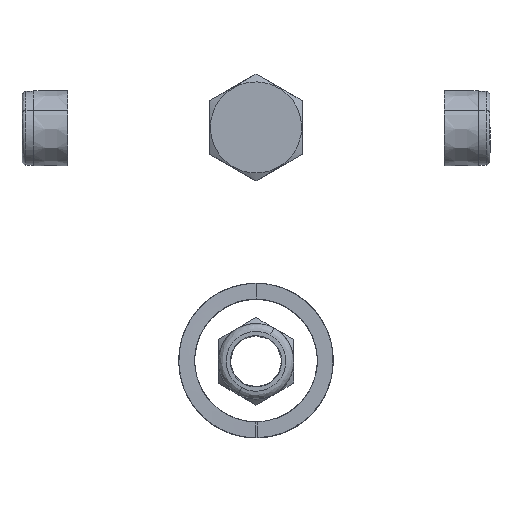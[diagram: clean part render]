
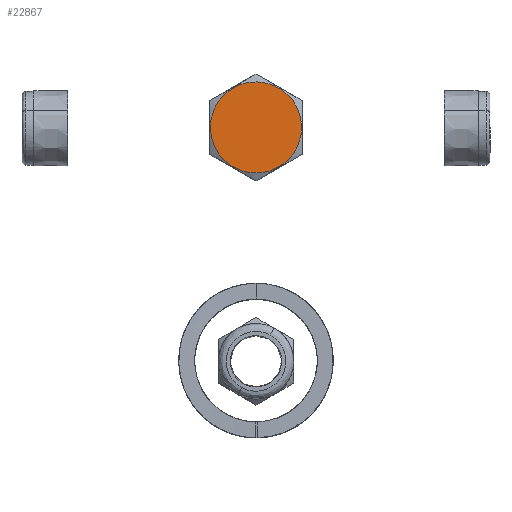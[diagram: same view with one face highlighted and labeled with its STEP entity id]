
A CAD part, top view. The second image highlights one B-rep face of the part: STEP entity #22867.
In plain terms, the highlighted planar face has unit normal (0, 0, 1).
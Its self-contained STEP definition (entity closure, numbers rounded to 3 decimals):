
#304 = FACE_OUTER_BOUND ( 'NONE', #23169, .T. ) ;
#375 = CARTESIAN_POINT ( 'NONE',  ( -11.5, 0., 0. ) ) ;
#383 = CARTESIAN_POINT ( 'NONE',  ( 11.5, 0., 0. ) ) ;
#384 = CARTESIAN_POINT ( 'NONE',  ( -11.5, -1.728, 0. ) ) ;
#385 = CARTESIAN_POINT ( 'NONE',  ( -11.111, -3.433, 0. ) ) ;
#386 = CARTESIAN_POINT ( 'NONE',  ( -10.361, -4.99, 0. ) ) ;
#387 = CARTESIAN_POINT ( 'NONE',  ( -9.612, -6.546, 0. ) ) ;
#388 = CARTESIAN_POINT ( 'NONE',  ( -8.521, -7.914, 0. ) ) ;
#389 = CARTESIAN_POINT ( 'NONE',  ( -7.17, -8.991, 0. ) ) ;
#390 = CARTESIAN_POINT ( 'NONE',  ( -5.819, -10.068, 0. ) ) ;
#391 = CARTESIAN_POINT ( 'NONE',  ( -4.243, -10.827, 0. ) ) ;
#392 = CARTESIAN_POINT ( 'NONE',  ( -2.559, -11.212, 0. ) ) ;
#393 = CARTESIAN_POINT ( 'NONE',  ( -0.875, -11.596, 0. ) ) ;
#394 = CARTESIAN_POINT ( 'NONE',  ( 0.875, -11.596, 0. ) ) ;
#395 = CARTESIAN_POINT ( 'NONE',  ( 2.559, -11.212, 0. ) ) ;
#396 = CARTESIAN_POINT ( 'NONE',  ( 4.243, -10.827, 0. ) ) ;
#397 = CARTESIAN_POINT ( 'NONE',  ( 5.819, -10.068, 0. ) ) ;
#398 = CARTESIAN_POINT ( 'NONE',  ( 7.17, -8.991, 0. ) ) ;
#399 = CARTESIAN_POINT ( 'NONE',  ( 8.521, -7.914, 0. ) ) ;
#400 = CARTESIAN_POINT ( 'NONE',  ( 9.612, -6.546, 0. ) ) ;
#401 = CARTESIAN_POINT ( 'NONE',  ( 10.361, -4.99, 0. ) ) ;
#402 = CARTESIAN_POINT ( 'NONE',  ( 11.111, -3.433, 0. ) ) ;
#403 = CARTESIAN_POINT ( 'NONE',  ( 11.5, -1.728, 0. ) ) ;
#404 = CARTESIAN_POINT ( 'NONE',  ( 11.5, 0., 0. ) ) ;
#408 = CARTESIAN_POINT ( 'NONE',  ( 11.5, 1.728, 0. ) ) ;
#409 = CARTESIAN_POINT ( 'NONE',  ( 11.111, 3.433, 0. ) ) ;
#410 = CARTESIAN_POINT ( 'NONE',  ( 10.361, 4.99, 0. ) ) ;
#411 = CARTESIAN_POINT ( 'NONE',  ( 9.612, 6.546, 0. ) ) ;
#412 = CARTESIAN_POINT ( 'NONE',  ( 8.521, 7.914, 0. ) ) ;
#413 = CARTESIAN_POINT ( 'NONE',  ( 7.17, 8.991, 0. ) ) ;
#414 = CARTESIAN_POINT ( 'NONE',  ( 5.819, 10.068, 0. ) ) ;
#415 = CARTESIAN_POINT ( 'NONE',  ( 4.243, 10.827, 0. ) ) ;
#416 = CARTESIAN_POINT ( 'NONE',  ( 2.559, 11.212, 0. ) ) ;
#417 = CARTESIAN_POINT ( 'NONE',  ( 0.875, 11.596, 0. ) ) ;
#418 = CARTESIAN_POINT ( 'NONE',  ( -0.875, 11.596, 0. ) ) ;
#419 = CARTESIAN_POINT ( 'NONE',  ( -2.559, 11.212, 0. ) ) ;
#420 = CARTESIAN_POINT ( 'NONE',  ( -4.243, 10.827, 0. ) ) ;
#421 = CARTESIAN_POINT ( 'NONE',  ( -5.819, 10.068, 0. ) ) ;
#422 = CARTESIAN_POINT ( 'NONE',  ( -7.17, 8.991, 0. ) ) ;
#423 = CARTESIAN_POINT ( 'NONE',  ( -8.521, 7.914, 0. ) ) ;
#424 = CARTESIAN_POINT ( 'NONE',  ( -9.612, 6.546, 0. ) ) ;
#425 = CARTESIAN_POINT ( 'NONE',  ( -10.361, 4.99, 0. ) ) ;
#426 = CARTESIAN_POINT ( 'NONE',  ( -11.111, 3.433, 0. ) ) ;
#427 = CARTESIAN_POINT ( 'NONE',  ( -11.5, 1.728, 0. ) ) ;
#428 = CARTESIAN_POINT ( 'NONE',  ( -11.5, 0., 0. ) ) ;
#3941 = CARTESIAN_POINT ( 'NONE',  ( -11.5, 0., 0. ) ) ;
#3942 = CARTESIAN_POINT ( 'NONE',  ( 11.5, 0., 0. ) ) ;
#4009 = VERTEX_POINT ( 'NONE', #3942 ) ;
#4010 = VERTEX_POINT ( 'NONE', #3941 ) ;
#6041 = CARTESIAN_POINT ( 'NONE',  ( -11.5, -11.5, 0. ) ) ;
#6326 = PLANE ( 'NONE',  #9818 ) ;
#6335 = DIRECTION ( 'NONE',  ( 0., 0., -1. ) ) ;
#6336 = DIRECTION ( 'NONE',  ( 0., 1., 0. ) ) ;
#9483 = EDGE_CURVE ( 'NONE', #4010, #4009, #22955, .T. ) ;
#9485 = EDGE_CURVE ( 'NONE', #4009, #4010, #22954, .T. ) ;
#9818 = AXIS2_PLACEMENT_3D ( 'NONE', #6041, #6335, #6336 ) ;
#9988 = ORIENTED_EDGE ( 'NONE', *, *, #9483, .T. ) ;
#9990 = ORIENTED_EDGE ( 'NONE', *, *, #9485, .T. ) ;
#22867 = ADVANCED_FACE ( 'NONE', ( #304 ), #6326, .F. ) ;
#22954 = B_SPLINE_CURVE_WITH_KNOTS ( 'NONE', 3,
 ( #383, #408, #409, #410, #411, #412, #413, #414, #415, #416, #417, #418, #419, #420, #421, #422, #423, #424, #425, #426, #427, #428 ),
 .UNSPECIFIED., .F., .F.,
 ( 4, 3, 3, 3, 3, 3, 3, 4 ),
 ( -0.033, -0.028, -0.023, -0.018, -0.013, -0.008, -0.003, 0.003 ),
 .UNSPECIFIED. ) ;
#22955 = B_SPLINE_CURVE_WITH_KNOTS ( 'NONE', 3,
 ( #375, #384, #385, #386, #387, #388, #389, #390, #391, #392, #393, #394, #395, #396, #397, #398, #399, #400, #401, #402, #403, #404 ),
 .UNSPECIFIED., .F., .F.,
 ( 4, 3, 3, 3, 3, 3, 3, 4 ),
 ( -0.033, -0.028, -0.023, -0.018, -0.012, -0.007, -0.002, 0.003 ),
 .UNSPECIFIED. ) ;
#23169 = EDGE_LOOP ( 'NONE', ( #9988, #9990 ) ) ;
